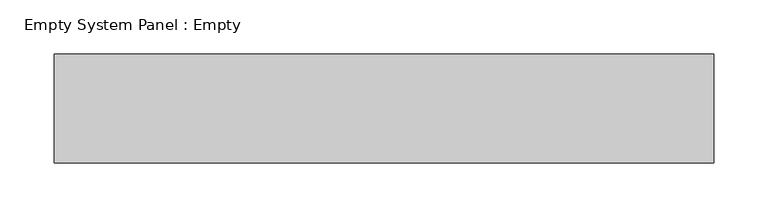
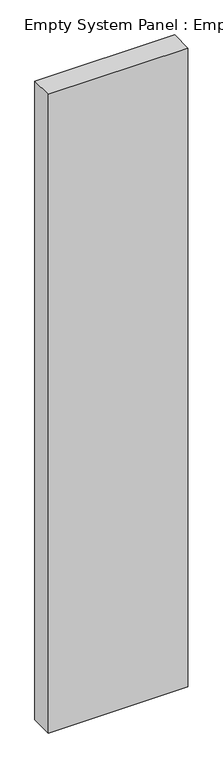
"""IFC4 building model written with IfcOpenShell, lengths in millimetres: plate geometry, Empty System Panel : Empty."""

from ifc_helpers import new_model, si_unit, origin, origin_with_axes, place, context, project, spatial, polyline, outline, extrude, source, transform, mapped, element, save


def empty_system_panel_empty_b3d00ce9(model_context):
    return source(origin(), model_context, "Body", "SweptSolid", [
        extrude(outline(polyline([(302.5, -50.0), (-302.5, -50.0), (-302.5, 50.0), (302.5, 50.0), (302.5, -50.0)])), origin_with_axes(), (0.0, 0.0, 1.0), 2925.0),
    ])


if __name__ == "__main__":
    model = new_model("IFC4")
    model_context = context("Model", 3, world=origin())
    ifc_project = project(units=[si_unit("LENGTHUNIT", "METRE", prefix="MILLI")], contexts=[model_context])
    site = spatial("IfcSite", under=ifc_project)
    building = spatial("IfcBuilding", under=site)
    placement = place(None, origin())
    empty_system_panel_empty_shape = empty_system_panel_empty_b3d00ce9(model_context)
    element("IfcPlate", 1, ObjectType="Empty System Panel : Empty", at=placement, inside=building, context=model_context, shape_type="MappedRepresentation", body=[
        mapped(empty_system_panel_empty_shape, transform((0.0, 0.0, 0.0), x_axis=(1.0, 0.0, 0.0), y_axis=(0.0, 1.0, 0.0), z_axis=(0.0, 0.0, 1.0))),
    ])
    save(model, "model.ifc")
